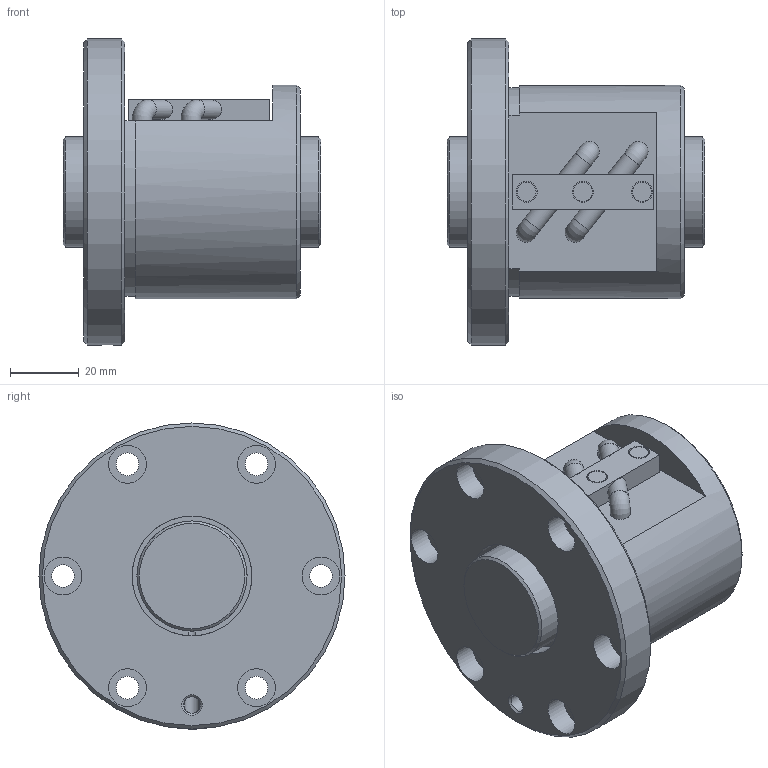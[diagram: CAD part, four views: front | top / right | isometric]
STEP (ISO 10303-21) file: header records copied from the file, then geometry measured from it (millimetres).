
FILE_DESCRIPTION(/* description */ ('STEP AP203'),/* implementation_level */ '2;1');
FILE_NAME(/* name */ 'BIF3206V-5RRG0+75LC0_000',/* time_stamp */ '2024-07-15T08:23:00+02:00',/* author */ ('License CC BY-ND 4.0'),/* organization */ ('CADENAS'),/* preprocessor_version */ 'ST-DEVELOPER v19.3',/* originating_system */ 'PARTsolutions',/* authorisation */ ' ');
FILE_SCHEMA (('CONFIG_CONTROL_DESIGN'));
Length unit declared in the file: millimetre
Products named in the file (3): BIF3206V-5RRG0+75LC0_000; BIF3206V-5RR000 Shaft; BIF3206V-5RR Nut
Assembly tree (2 placements, depth 2):
  BIF3206V-5RRG0+75LC0_000
    BIF3206V-5RR000 Shaft
    BIF3206V-5RR Nut
Bounding box: 75 x 89 x 89 mm (x, y, z)
Volume: 220188.9 mm3; surface area: 43253.9 mm2
Topology: 2 solids, 2 shells, 89 faces, 200 edges, 127 vertices
Faces by surface type: plane 41, cylinder 36, cone 8, torus 4
Full cylindrical faces by diameter (mm): 4.25 x2, 4.917 x1, 5.5 x3, 5.8 x4, 6.1 x3, 6.6 x6, 11 x6, 32 x2, 34.8 x2, 62 x1, 89 x1
Entity records: 2401 total; most frequent: CARTESIAN_POINT 455, DIRECTION 424, ORIENTED_EDGE 298, AXIS2_PLACEMENT_3D 194, EDGE_LOOP 164, FACE_BOUND 164, EDGE_CURVE 149, VERTEX_POINT 115
